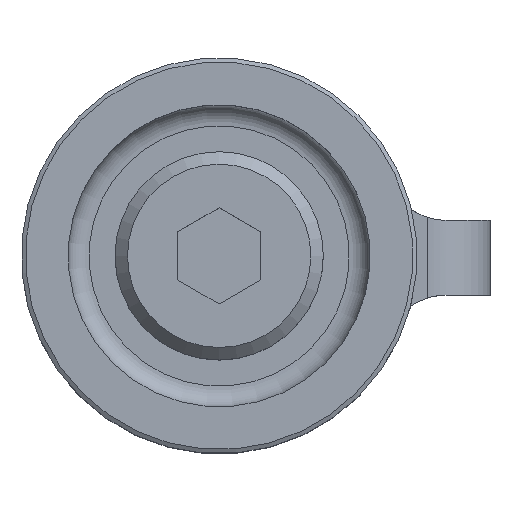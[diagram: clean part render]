
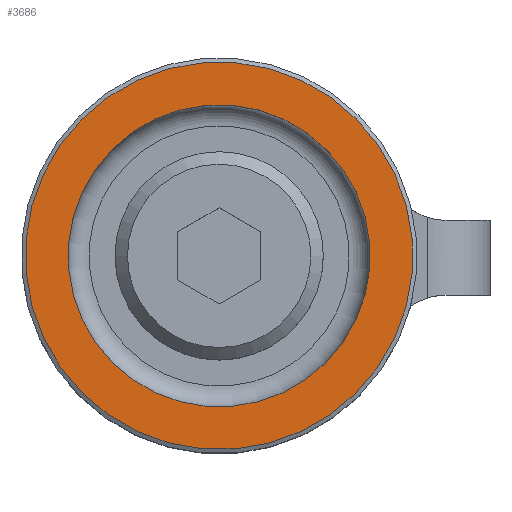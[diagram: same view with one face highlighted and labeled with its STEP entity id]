
A CAD part, top view. The second image highlights one B-rep face of the part: STEP entity #3686.
In plain terms, the highlighted planar face has unit normal (0, 0, 1) as drawn and (1, 0, 0) by its records, which use the part's own axes.
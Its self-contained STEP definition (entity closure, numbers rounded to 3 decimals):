
#3686=ADVANCED_FACE('A_MATE1',(#4236,#4237),#3803,.F.);
#3803=PLANE('',#8673);
#4048=CIRCLE('',#8671,9.3);
#4049=CIRCLE('',#8672,7.25);
#4236=FACE_BOUND('',#4678,.T.);
#4237=FACE_BOUND('',#4679,.T.);
#4678=EDGE_LOOP('',(#6142));
#4679=EDGE_LOOP('',(#6143));
#6142=ORIENTED_EDGE('',*,*,#7434,.T.);
#6143=ORIENTED_EDGE('',*,*,#7435,.F.);
#6694=VERTEX_POINT('',#12410);
#6695=VERTEX_POINT('',#12412);
#7434=EDGE_CURVE('',#6694,#6694,#4048,.T.);
#7435=EDGE_CURVE('',#6695,#6695,#4049,.T.);
#8671=AXIS2_PLACEMENT_3D('',#12409,#10201,#10202);
#8672=AXIS2_PLACEMENT_3D('',#12411,#10203,#10204);
#8673=AXIS2_PLACEMENT_3D('',#12413,#10205,#10206);
#10201=DIRECTION('',(1.,0.,0.));
#10202=DIRECTION('',(0.,0.,1.));
#10203=DIRECTION('',(1.,0.,0.));
#10204=DIRECTION('',(0.,0.,1.));
#10205=DIRECTION('',(-1.,0.,0.));
#10206=DIRECTION('',(0.,0.,1.));
#12409=CARTESIAN_POINT('',(10.,0.,0.));
#12410=CARTESIAN_POINT('',(10.,0.,9.3));
#12411=CARTESIAN_POINT('',(10.,0.,0.));
#12412=CARTESIAN_POINT('',(10.,0.,7.25));
#12413=CARTESIAN_POINT('',(10.,9.5,0.));
